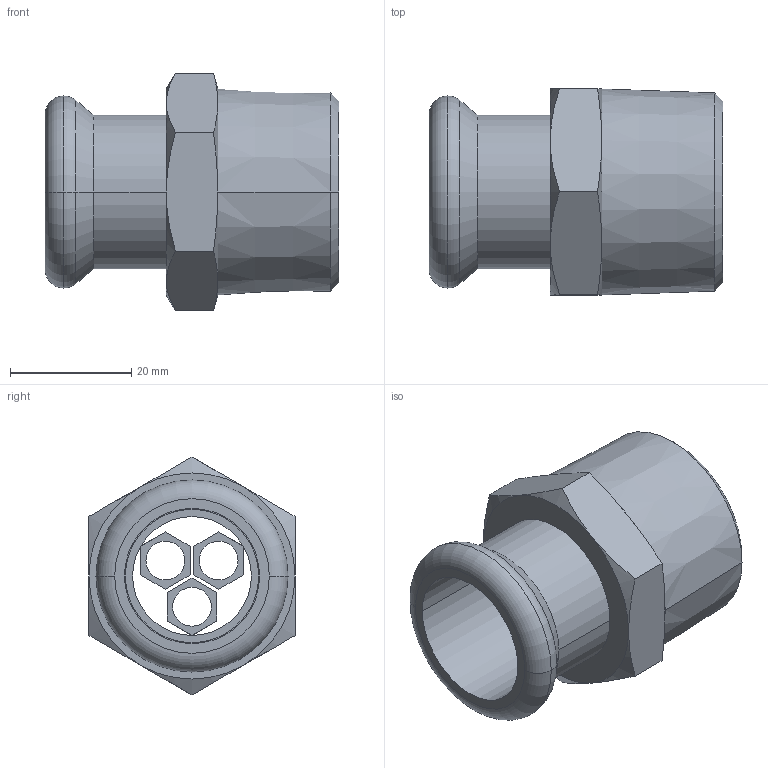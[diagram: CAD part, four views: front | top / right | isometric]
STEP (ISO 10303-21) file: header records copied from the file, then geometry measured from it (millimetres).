
FILE_DESCRIPTION(('OneSpaceDesigner STEP Export'),'2;1');
FILE_NAME('R2705 22xR1.stp','2010-06-09T10:41:19',(''),(''),'OneSpace Designer STEP processor for AP214 (Solid Model)','OneSpace Modeling 15.00A 14-Mar-2007 (C) CoCreate Software GmbH','');
FILE_SCHEMA(('AUTOMOTIVE_DESIGN { 1 0 10303 214 1 1 1 1 }'));
Length unit declared in the file: millimetre
Products named in the file (2): R2705_22xR1
Assembly tree (1 placements, depth 2):
  R2705_22xR1
    R2705_22xR1
Bounding box: 48.5 x 34 x 39.26 mm (x, y, z)
Volume: 14617.6 mm3; surface area: 10583.3 mm2
Topology: 1 solids, 1 shells, 85 faces, 201 edges, 126 vertices
Faces by surface type: plane 40, cylinder 21, cone 20, torus 4
Entity records: 3011 total; most frequent: CARTESIAN_POINT 1217, ORIENTED_EDGE 402, DIRECTION 293, EDGE_CURVE 201, VERTEX_POINT 126, EDGE_LOOP 101, VECTOR 101, LINE 101
